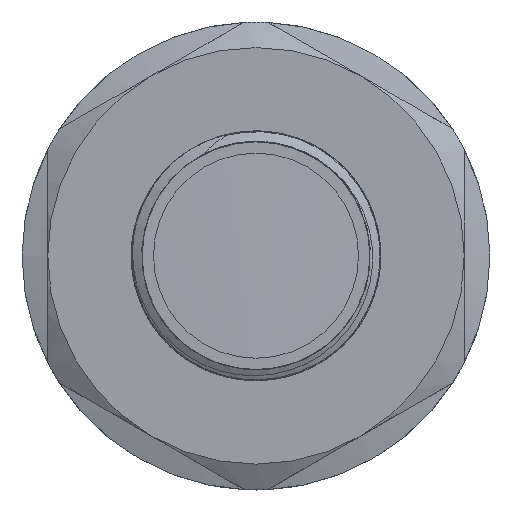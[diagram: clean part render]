
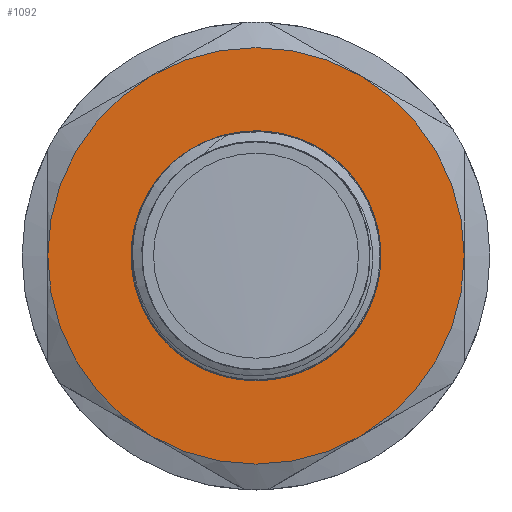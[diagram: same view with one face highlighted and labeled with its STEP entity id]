
A CAD part, top view. The second image highlights one B-rep face of the part: STEP entity #1092.
In plain terms, the highlighted planar face has unit normal (0, 0, 1).
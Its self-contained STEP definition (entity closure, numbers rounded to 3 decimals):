
#99=FACE_BOUND('',#293,.T.);
#201=PLANE('',#1202);
#229=FACE_OUTER_BOUND('',#292,.T.);
#292=EDGE_LOOP('',(#823,#824,#825,#826,#827,#828));
#293=EDGE_LOOP('',(#829,#830));
#344=CIRCLE('',#1159,32.5);
#347=CIRCLE('',#1163,32.5);
#348=CIRCLE('',#1165,32.5);
#350=CIRCLE('',#1168,32.5);
#352=CIRCLE('',#1171,32.5);
#354=CIRCLE('',#1174,32.5);
#364=CIRCLE('',#1189,17.763);
#367=CIRCLE('',#1192,17.763);
#417=VERTEX_POINT('',#1495);
#419=VERTEX_POINT('',#1501);
#421=VERTEX_POINT('',#1508);
#425=VERTEX_POINT('',#1525);
#428=VERTEX_POINT('',#1537);
#431=VERTEX_POINT('',#1549);
#452=VERTEX_POINT('',#1628);
#453=VERTEX_POINT('',#1629);
#538=EDGE_CURVE('',#417,#419,#344,.T.);
#543=EDGE_CURVE('',#421,#417,#347,.T.);
#545=EDGE_CURVE('',#425,#421,#348,.T.);
#549=EDGE_CURVE('',#428,#425,#350,.T.);
#553=EDGE_CURVE('',#431,#428,#352,.T.);
#557=EDGE_CURVE('',#419,#431,#354,.T.);
#587=EDGE_CURVE('',#452,#453,#364,.T.);
#591=EDGE_CURVE('',#453,#452,#367,.T.);
#823=ORIENTED_EDGE('',*,*,#557,.T.);
#824=ORIENTED_EDGE('',*,*,#553,.T.);
#825=ORIENTED_EDGE('',*,*,#549,.T.);
#826=ORIENTED_EDGE('',*,*,#545,.T.);
#827=ORIENTED_EDGE('',*,*,#543,.T.);
#828=ORIENTED_EDGE('',*,*,#538,.T.);
#829=ORIENTED_EDGE('',*,*,#587,.F.);
#830=ORIENTED_EDGE('',*,*,#591,.F.);
#1092=ADVANCED_FACE('',(#229,#99),#201,.T.);
#1159=AXIS2_PLACEMENT_3D('',#1505,#1263,#1264);
#1163=AXIS2_PLACEMENT_3D('',#1519,#1271,#1272);
#1165=AXIS2_PLACEMENT_3D('',#1526,#1275,#1276);
#1168=AXIS2_PLACEMENT_3D('',#1538,#1281,#1282);
#1171=AXIS2_PLACEMENT_3D('',#1550,#1287,#1288);
#1174=AXIS2_PLACEMENT_3D('',#1561,#1293,#1294);
#1189=AXIS2_PLACEMENT_3D('',#1630,#1336,#1337);
#1192=AXIS2_PLACEMENT_3D('',#1636,#1343,#1344);
#1202=AXIS2_PLACEMENT_3D('',#1667,#1363,#1364);
#1263=DIRECTION('center_axis',(0.,0.,1.));
#1264=DIRECTION('ref_axis',(0.,1.,0.));
#1271=DIRECTION('center_axis',(0.,0.,1.));
#1272=DIRECTION('ref_axis',(0.,1.,0.));
#1275=DIRECTION('center_axis',(0.,0.,1.));
#1276=DIRECTION('ref_axis',(0.,1.,0.));
#1281=DIRECTION('center_axis',(0.,0.,1.));
#1282=DIRECTION('ref_axis',(0.,1.,0.));
#1287=DIRECTION('center_axis',(0.,0.,1.));
#1288=DIRECTION('ref_axis',(0.,1.,0.));
#1293=DIRECTION('center_axis',(0.,0.,1.));
#1294=DIRECTION('ref_axis',(0.,1.,0.));
#1336=DIRECTION('center_axis',(0.,0.,1.));
#1337=DIRECTION('ref_axis',(1.,0.,0.));
#1343=DIRECTION('center_axis',(0.,0.,1.));
#1344=DIRECTION('ref_axis',(1.,0.,0.));
#1363=DIRECTION('center_axis',(0.,0.,1.));
#1364=DIRECTION('ref_axis',(1.,0.,0.));
#1495=CARTESIAN_POINT('',(-16.25,28.146,22.));
#1501=CARTESIAN_POINT('',(-32.5,0.,22.));
#1505=CARTESIAN_POINT('Origin',(0.,0.,22.));
#1508=CARTESIAN_POINT('',(16.25,28.146,22.));
#1519=CARTESIAN_POINT('Origin',(0.,0.,22.));
#1525=CARTESIAN_POINT('',(32.5,0.,22.));
#1526=CARTESIAN_POINT('Origin',(0.,0.,22.));
#1537=CARTESIAN_POINT('',(16.25,-28.146,22.));
#1538=CARTESIAN_POINT('Origin',(0.,0.,22.));
#1549=CARTESIAN_POINT('',(-16.25,-28.146,22.));
#1550=CARTESIAN_POINT('Origin',(0.,0.,22.));
#1561=CARTESIAN_POINT('Origin',(0.,0.,22.));
#1628=CARTESIAN_POINT('',(0.,17.763,22.));
#1629=CARTESIAN_POINT('',(0.,-17.763,22.));
#1630=CARTESIAN_POINT('Origin',(0.,0.,22.));
#1636=CARTESIAN_POINT('Origin',(0.,0.,22.));
#1667=CARTESIAN_POINT('Origin',(0.,-19.475,22.));
